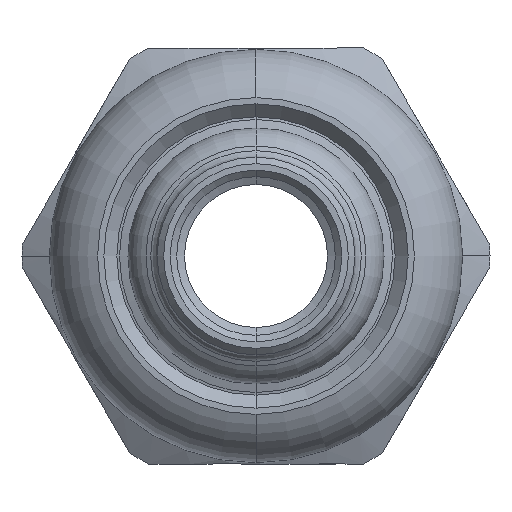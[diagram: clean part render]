
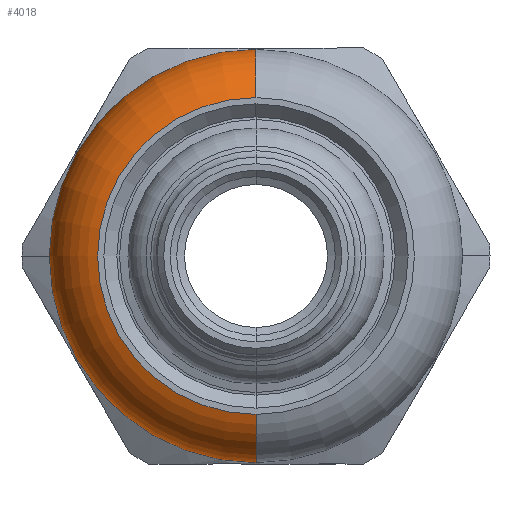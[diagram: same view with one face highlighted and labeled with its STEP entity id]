
A CAD part, left-side view. The second image highlights one B-rep face of the part: STEP entity #4018.
In plain terms, the highlighted toroidal (fillet/blend) face has major radius 10.4 mm and minor radius 5.5 mm.
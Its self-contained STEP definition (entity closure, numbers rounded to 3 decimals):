
#12 = AXIS2_PLACEMENT_3D ( 'NONE', #511, #4485, #756 ) ;
#150 = VERTEX_POINT ( 'NONE', #1585 ) ;
#392 = VERTEX_POINT ( 'NONE', #3415 ) ;
#511 = CARTESIAN_POINT ( 'NONE',  ( 10.598, 0., 0. ) ) ;
#595 = AXIS2_PLACEMENT_3D ( 'NONE', #1641, #2064, #613 ) ;
#613 = DIRECTION ( 'NONE',  ( 0., 0., 1. ) ) ;
#660 = EDGE_CURVE ( 'NONE', #2150, #150, #2498, .T. ) ;
#734 = EDGE_CURVE ( 'NONE', #150, #392, #2536, .T. ) ;
#756 = DIRECTION ( 'NONE',  ( 0., 0., 1. ) ) ;
#790 = EDGE_CURVE ( 'NONE', #392, #1544, #2442, .T. ) ;
#828 = EDGE_CURVE ( 'NONE', #2150, #4020, #2390, .T. ) ;
#843 = EDGE_CURVE ( 'NONE', #4020, #1544, #2724, .T. ) ;
#1158 = ORIENTED_EDGE ( 'NONE', *, *, #790, .F. ) ;
#1299 = EDGE_LOOP ( 'NONE', ( #4034, #4498, #1158, #4271, #3689 ) ) ;
#1300 = DIRECTION ( 'NONE',  ( 0., -1., 0. ) ) ;
#1422 = CARTESIAN_POINT ( 'NONE',  ( 15.8, 0., 12.185 ) ) ;
#1530 = DIRECTION ( 'NONE',  ( -1., 0., 0. ) ) ;
#1544 = VERTEX_POINT ( 'NONE', #2782 ) ;
#1585 = CARTESIAN_POINT ( 'NONE',  ( 10.598, 0., 15.9 ) ) ;
#1641 = CARTESIAN_POINT ( 'NONE',  ( 10.598, 0., 0. ) ) ;
#2064 = DIRECTION ( 'NONE',  ( -1., 0., 0. ) ) ;
#2088 = AXIS2_PLACEMENT_3D ( 'NONE', #2808, #1300, #4572 ) ;
#2150 = VERTEX_POINT ( 'NONE', #1422 ) ;
#2390 = CIRCLE ( 'NONE', #4350, 12.185 ) ;
#2442 = CIRCLE ( 'NONE', #12, 15.9 ) ;
#2498 = CIRCLE ( 'NONE', #2088, 5.5 ) ;
#2536 = CIRCLE ( 'NONE', #595, 15.9 ) ;
#2724 = CIRCLE ( 'NONE', #3286, 5.5 ) ;
#2782 = CARTESIAN_POINT ( 'NONE',  ( 10.598, 0., -15.9 ) ) ;
#2808 = CARTESIAN_POINT ( 'NONE',  ( 10.598, 0., 10.4 ) ) ;
#3125 = AXIS2_PLACEMENT_3D ( 'NONE', #4199, #1530, #3775 ) ;
#3126 = FACE_OUTER_BOUND ( 'NONE', #1299, .T. ) ;
#3286 = AXIS2_PLACEMENT_3D ( 'NONE', #3289, #4134, #3444 ) ;
#3289 = CARTESIAN_POINT ( 'NONE',  ( 10.598, 0., -10.4 ) ) ;
#3415 = CARTESIAN_POINT ( 'NONE',  ( 10.598, 15.9, 0. ) ) ;
#3444 = DIRECTION ( 'NONE',  ( 0., 0., 1. ) ) ;
#3639 = TOROIDAL_SURFACE ( 'NONE', #3125, 10.4, 5.5 ) ;
#3689 = ORIENTED_EDGE ( 'NONE', *, *, #660, .F. ) ;
#3755 = CARTESIAN_POINT ( 'NONE',  ( 15.8, 0., -12.185 ) ) ;
#3775 = DIRECTION ( 'NONE',  ( 0., 0., 1. ) ) ;
#3981 = DIRECTION ( 'NONE',  ( 0., 0., 1. ) ) ;
#4018 = ADVANCED_FACE ( 'NONE', ( #3126 ), #3639, .T. ) ;
#4020 = VERTEX_POINT ( 'NONE', #3755 ) ;
#4034 = ORIENTED_EDGE ( 'NONE', *, *, #828, .T. ) ;
#4134 = DIRECTION ( 'NONE',  ( 0., 1., 0. ) ) ;
#4172 = DIRECTION ( 'NONE',  ( -1., 0., 0. ) ) ;
#4199 = CARTESIAN_POINT ( 'NONE',  ( 10.598, 0., 0. ) ) ;
#4209 = CARTESIAN_POINT ( 'NONE',  ( 15.8, 0., 0. ) ) ;
#4271 = ORIENTED_EDGE ( 'NONE', *, *, #734, .F. ) ;
#4350 = AXIS2_PLACEMENT_3D ( 'NONE', #4209, #4172, #3981 ) ;
#4485 = DIRECTION ( 'NONE',  ( -1., 0., 0. ) ) ;
#4498 = ORIENTED_EDGE ( 'NONE', *, *, #843, .T. ) ;
#4572 = DIRECTION ( 'NONE',  ( 0., 0., -1. ) ) ;
